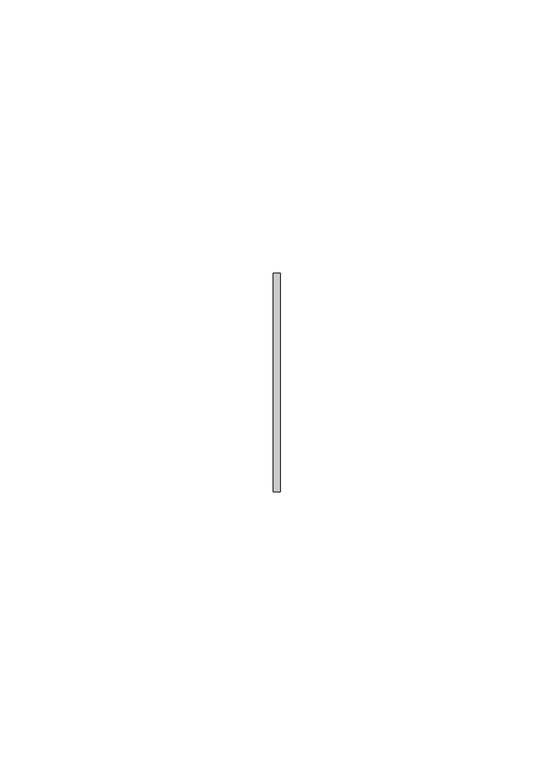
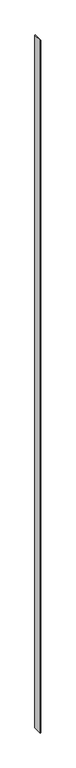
"""IFC4 building model written with IfcOpenShell, lengths in millimetres: plate geometry, Vitré."""

from ifc_helpers import new_model, si_unit, origin, origin_with_axes, place, context, project, spatial, polyline, outline, extrude, source, transform, mapped, element, save


def plate_4c28f9cb(model_context):
    return source(origin(), model_context, "Body", "SweptSolid", [
        extrude(outline(polyline([(-0.65625, -20.0), (-0.65625, 20.0), (0.65625, 20.0), (0.65625, -20.0), (-0.65625, -20.0)])), origin_with_axes(), (0.0, 0.0, 1.0), 3130.0),
    ])


if __name__ == "__main__":
    model = new_model("IFC4")
    model_context = context("Model", 3, world=origin())
    ifc_project = project(units=[si_unit("LENGTHUNIT", "METRE", prefix="MILLI")], contexts=[model_context])
    site = spatial("IfcSite", under=ifc_project)
    building = spatial("IfcBuilding", under=site)
    placement = place(None, origin())
    plate_shape = plate_4c28f9cb(model_context)
    element("IfcPlate", 1, ObjectType="Vitré", at=placement, inside=building, context=model_context, shape_type="MappedRepresentation", body=[
        mapped(plate_shape, transform((0.0, 0.0, 0.0), x_axis=(1.0, 0.0, 0.0), y_axis=(0.0, 1.0, 0.0), z_axis=(0.0, 0.0, 1.0))),
    ])
    save(model, "model.ifc")
